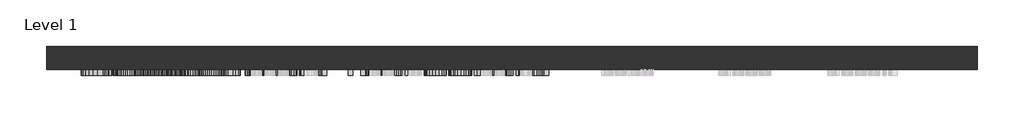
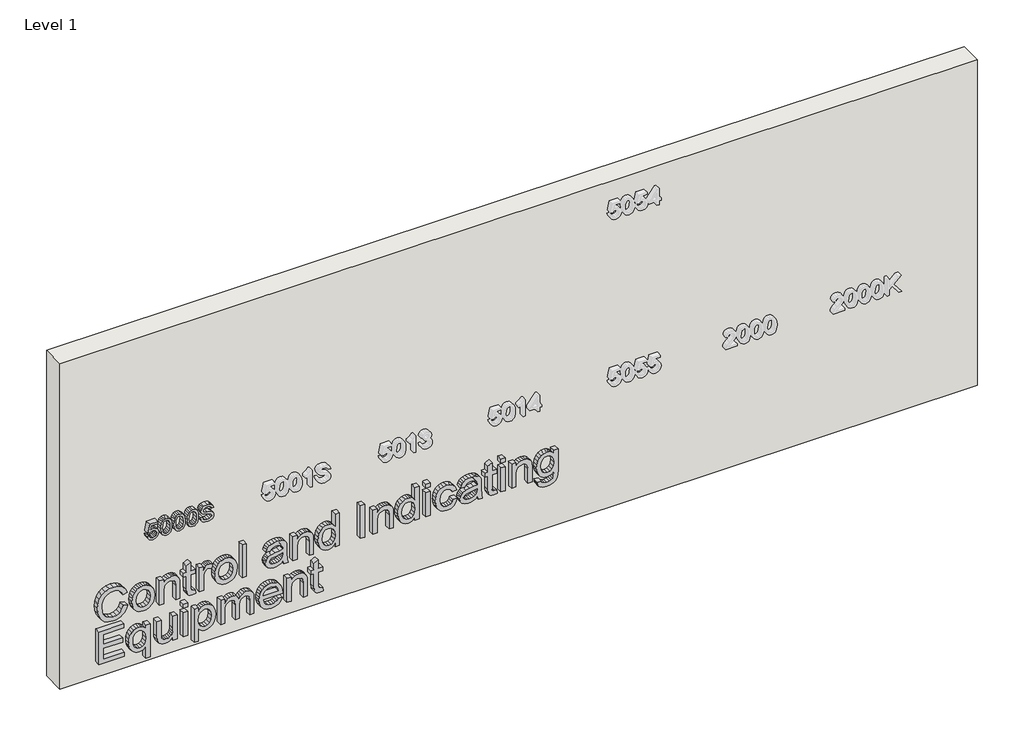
# One storey, part 1 of 2: 2 proxies, 1 wall.
"""IFC4 building model written with IfcOpenShell, lengths in millimetres."""

from ifc_helpers import new_model, si_unit, frame, origin, origin_with_axes, place, context, project, spatial, polyline, outline, extrude, element, save

model = new_model("IFC4")

# Units and contexts
model_context = context("Model", 3, world=origin())
ifc_project = project(units=[si_unit("LENGTHUNIT", "METRE", prefix="MILLI")], contexts=[model_context])

# Site, building, storey
site = spatial("IfcSite", under=ifc_project)
building = spatial("IfcBuilding", under=site)
storey = spatial("IfcBuildingStorey", under=building, Name="Level 1", Elevation=0.0)

# Proxies
placement = place(None, origin())
element("IfcBuildingElementProxy", 1, Name="150 mm", ObjectType="150 mm", at=placement, inside=storey, context=model_context, shape_type="SweptSolid", body=[
    extrude(outline(polyline([(1176.8590027, -4787.5415242), (1159.5823445, -4782.9475978), (1146.0856738, -4772.8446385), (1137.3806661, -4758.1063661), (1134.4789968, -4739.6065003), (1138.9947483, -4717.4232159), (1152.5420028, -4700.463856), (1168.6552342, -4691.6070969), (1187.4907923, -4688.6548439), (1206.786203, -4691.9335922), (1222.2188527, -4701.7698371), (1232.3448046, -4716.3793508), (1235.7201219, -4733.9779057), (1232.9977951, -4748.0769832), (1224.8308148, -4761.5322672), (1266.3279039, -4753.4756515), (1266.3279039, -4695.7181782), (1285.163462, -4695.7181782), (1285.163462, -4768.7059661), (1207.4667847, -4785.1870795), (1205.1123399, -4766.3515213), (1213.610414, -4755.7749139), (1216.8845637, -4739.2386183), (1214.8336216, -4725.2912921), (1208.6807953, -4715.3814709), (1198.9871047, -4709.4631693), (1186.3135699, -4707.4904021), (1172.8536874, -4709.5965265), (1162.346058, -4715.9148998), (1155.5724307, -4726.0316546), (1153.314555, -4739.5329239), (1154.9378343, -4750.6337631), (1159.8076722, -4759.2146106), (1167.9056746, -4765.2478753), (1179.2134474, -4768.7059661), (1176.8590027, -4787.5415242)])), frame((0.0, 3097.8550077, 0.0), z_axis=(0.0, 1.0, 0.0), x_axis=(0.0, 0.0, 1.0)), (0.0, 0.0, 1.0), 50.0),
    extrude(outline(polyline([(1210.9616636, -4672.1737305), (1174.3114199, -4668.4213342), (1148.8263946, -4657.1641451), (1138.0658463, -4642.3017125), (1134.4789968, -4622.7303904), (1136.5437345, -4607.5046743), (1142.7379476, -4595.1576348), (1153.130614, -4585.6064985), (1167.7907115, -4578.768492), (1186.9803561, -4574.6574107), (1210.9616636, -4573.2870502), (1246.3703057, -4576.7083528), (1268.6639546, -4585.5375207), (1282.6618645, -4600.7310471), (1287.5179068, -4622.7303904), (1285.4669647, -4637.873333), (1279.3141383, -4650.1927813), (1268.9628587, -4659.7577132), (1254.3165568, -4666.6371065), (1235.0809269, -4670.7895745), (1210.9616636, -4672.1737305)]), holes=[polyline([(1210.9984518, -4653.3381724), (1240.2450704, -4651.057304), (1258.602382, -4644.2146989), (1266.162357, -4634.7417375), (1268.6823487, -4622.9511196), (1265.8220662, -4610.498314), (1257.2412186, -4600.6574707), (1239.9599619, -4594.256324), (1210.9984518, -4592.1226084), (1181.4161409, -4594.3299004), (1164.2590443, -4600.9517763), (1156.0506773, -4610.8110137), (1153.314555, -4622.7303904), (1156.0414803, -4634.649767), (1164.2222561, -4644.5090045), (1181.3701556, -4651.1308804), (1210.9984518, -4653.3381724)])]), frame((0.0, 3097.8550077, 0.0), z_axis=(0.0, 1.0, 0.0), x_axis=(0.0, 0.0, 1.0)), (0.0, 0.0, 1.0), 50.0),
    extrude(outline(polyline([(1210.9616636, -4556.8059369), (1174.3114199, -4553.0535405), (1148.8263946, -4541.7963514), (1138.0658463, -4526.9339188), (1134.4789968, -4507.3625967), (1136.5437345, -4492.1368806), (1142.7379476, -4479.7898412), (1153.130614, -4470.2387049), (1167.7907115, -4463.4006983), (1186.9803561, -4459.289617), (1210.9616636, -4457.9192565), (1246.3703057, -4461.3405591), (1268.6639546, -4470.169727), (1282.6618645, -4485.3632534), (1287.5179068, -4507.3625967), (1285.4669647, -4522.5055393), (1279.3141383, -4534.8249876), (1268.9628587, -4544.3899195), (1254.3165568, -4551.2693128), (1235.0809269, -4555.4217808), (1210.9616636, -4556.8059369)]), holes=[polyline([(1210.9984518, -4537.9703787), (1240.2450704, -4535.6895103), (1258.602382, -4528.8469052), (1266.162357, -4519.3739438), (1268.6823487, -4507.5833259), (1265.8220662, -4495.1305204), (1257.2412186, -4485.289677), (1239.9599619, -4478.8885303), (1210.9984518, -4476.7548147), (1181.4161409, -4478.9621067), (1164.2590443, -4485.5839826), (1156.0506773, -4495.4432201), (1153.314555, -4507.3625967), (1156.0414803, -4519.2819733), (1164.2222561, -4529.1412108), (1181.3701556, -4535.7630867), (1210.9984518, -4537.9703787)])]), frame((0.0, 3097.8550077, 0.0), z_axis=(0.0, 1.0, 0.0), x_axis=(0.0, 0.0, 1.0)), (0.0, 0.0, 1.0), 50.0),
    extrude(outline(polyline([(1210.9616636, -4441.4381432), (1174.3114199, -4437.6857468), (1148.8263946, -4426.4285578), (1138.0658463, -4411.5661252), (1134.4789968, -4391.994803), (1136.5437345, -4376.7690869), (1142.7379476, -4364.4220475), (1153.130614, -4354.8709112), (1167.7907115, -4348.0329046), (1186.9803561, -4343.9218233), (1210.9616636, -4342.5514629), (1246.3703057, -4345.9727654), (1268.6639546, -4354.8019333), (1282.6618645, -4369.9954597), (1287.5179068, -4391.994803), (1285.4669647, -4407.1377456), (1279.3141383, -4419.457194), (1268.9628587, -4429.0221258), (1254.3165568, -4435.9015191), (1235.0809269, -4440.0539872), (1210.9616636, -4441.4381432)]), holes=[polyline([(1210.9984518, -4422.602585), (1240.2450704, -4420.3217166), (1258.602382, -4413.4791115), (1266.162357, -4404.0061502), (1268.6823487, -4392.2155322), (1265.8220662, -4379.7627267), (1257.2412186, -4369.9218833), (1239.9599619, -4363.5207366), (1210.9984518, -4361.387021), (1181.4161409, -4363.594313), (1164.2590443, -4370.2161889), (1156.0506773, -4380.0754264), (1153.314555, -4391.994803), (1156.0414803, -4403.9141797), (1164.2222561, -4413.7734171), (1181.3701556, -4420.395293), (1210.9984518, -4422.602585)])]), frame((0.0, 3097.8550077, 0.0), z_axis=(0.0, 1.0, 0.0), x_axis=(0.0, 0.0, 1.0)), (0.0, 0.0, 1.0), 50.0),
    extrude(outline(polyline([(1188.6312265, -4326.0703495), (1173.419306, -4323.8354664), (1159.8628545, -4317.9401574), (1148.7344241, -4308.7569031), (1140.8065671, -4296.658184), (1136.0608894, -4281.4692561), (1134.4789968, -4263.0153755), (1135.9459263, -4247.9827975), (1140.3467146, -4234.522915), (1147.3916549, -4223.3301053), (1156.7910398, -4215.0987456), (1167.7125366, -4210.0357697), (1179.323812, -4208.348111), (1190.6821686, -4209.8150405), (1200.6241796, -4214.2158288), (1209.0578743, -4221.706826), (1215.8912824, -4232.4443817), (1225.3458496, -4265.7744905), (1235.8672747, -4296.5294253), (1241.6890073, -4301.0267827), (1248.9270855, -4302.5259018), (1257.4159626, -4300.4105803), (1264.5620703, -4294.0646159), (1269.4181127, -4283.0925354), (1271.0367934, -4267.0988656), (1269.3997186, -4251.4730779), (1264.4884939, -4240.2066918), (1256.3766959, -4232.9962047), (1245.137901, -4229.5381139), (1245.137901, -4210.7025558), (1257.6182977, -4212.8270743), (1268.7191369, -4218.1705603), (1277.8702015, -4226.6134521), (1284.5012745, -4238.036188), (1289.8723516, -4267.8346296), (1284.7403978, -4295.7568731), (1278.4128274, -4306.7979315), (1269.6940242, -4314.8315545), (1259.4071239, -4319.7289836), (1248.3752625, -4321.3614599), (1229.650069, -4316.0823533), (1215.633765, -4300.0610924), (1206.3447446, -4270.5385623), (1199.1526516, -4243.1129596), (1190.5993952, -4230.3106661), (1178.8455654, -4227.1836692), (1166.2088189, -4231.3591298), (1156.7542516, -4244.0694528), (1153.314555, -4263.7511395), (1157.8578976, -4286.339094), (1169.7772743, -4301.1647384), (1188.6312265, -4307.2347913), (1188.6312265, -4326.0703495)])), frame((0.0, 3097.8550077, 0.0), z_axis=(0.0, 1.0, 0.0), x_axis=(0.0, 0.0, 1.0)), (0.0, 0.0, 1.0), 50.0),
])
element("IfcBuildingElementProxy", 2, Name="300 mm Arial 2", ObjectType="300 mm Arial 2", at=placement, inside=storey, context=model_context, shape_type="SweptSolid", body=[
    extrude(outline(polyline([(618.2566909, -4997.941147), (585.9934399, -5010.1272381), (562.780086, -5029.9100924), (548.763782, -5056.1124875), (544.0916807, -5087.557201), (547.5221803, -5114.5321483), (557.8136791, -5139.5389269), (575.0397535, -5160.397836), (599.2739799, -5174.9291749), (629.3667271, -5183.4548401), (664.1683639, -5186.2967285), (692.587248, -5183.8962985), (720.1600036, -5176.6950084), (744.5505798, -5163.5708183), (763.4229262, -5143.4016879), (775.5078497, -5116.8222137), (779.5361576, -5084.4669922), (775.9033229, -5056.397596), (765.0048188, -5033.5521241), (746.1600636, -5015.7098473), (718.6884756, -5002.6500365), (727.6647963, -4964.9789202), (765.4830654, -4981.6163834), (780.8053505, -4993.4184977), (793.7364026, -5007.542867), (804.0049088, -5023.722777), (811.3395561, -5041.6915133), (817.2072739, -5082.9954643), (812.6731283, -5120.8505216), (799.0706915, -5155.3946409), (776.7310574, -5184.5216979), (745.9853196, -5206.125568), (708.0382918, -5219.5072756), (664.0947875, -5223.9678448), (622.4321515, -5220.0223104), (583.5286305, -5208.1857072), (550.4376451, -5188.7983261), (526.2126157, -5162.2004578), (511.3685772, -5127.4999886), (506.4205644, -5083.8048046), (508.05534, -5061.382397), (512.9596668, -5040.7626112), (521.1335449, -5021.9454472), (532.5769742, -5004.9309049), (547.1336049, -4990.0546767), (564.6470871, -4977.6524549), (585.1174209, -4967.7242396), (608.5446062, -4960.2700307), (618.2566909, -4997.941147)])), frame((0.0, 3097.8550077, 0.0), z_axis=(0.0, 1.0, 0.0), x_axis=(0.0, 0.0, 1.0)), (0.0, 0.0, 1.0), 50.0),
    extrude(outline(polyline([(621.788358, -4922.5989144), (595.4664013, -4920.8905623), (572.4185943, -4915.7655063), (552.6449371, -4907.2237462), (536.1454296, -4895.2652821), (523.140801, -4880.538506), (513.8517807, -4863.6918099), (508.2783684, -4844.7251938), (506.4205644, -4823.6386577), (509.7958817, -4797.0499865), (519.9218336, -4772.6134249), (536.1546266, -4752.0396243), (557.8504673, -4737.039236), (586.8211744, -4727.8789743), (624.8785668, -4724.8255538), (649.758886, -4726.5522999), (671.7927182, -4731.7325382), (690.9800636, -4740.3662688), (707.3209219, -4752.4534916), (720.373835, -4767.2630412), (729.6973443, -4784.063752), (735.2914499, -4802.8556242), (737.1561517, -4823.6386577), (735.6248429, -4842.4650188), (731.0309165, -4859.8014578), (723.3743725, -4875.6479747), (712.6552109, -4890.0045696), (695.8843904, -4904.2645954), (675.1496414, -4914.4503282), (650.450964, -4920.5617678), (621.788358, -4922.5989144)]), holes=[polyline([(621.8619344, -4884.9277981), (655.9370042, -4880.5683964), (680.1712307, -4867.4901915), (694.6565842, -4847.8085047), (699.4850354, -4823.6386577), (694.6381901, -4799.7171309), (680.0976543, -4780.0446412), (656.1393393, -4766.8836629), (623.0391568, -4762.4966701), (588.2007319, -4766.8560717), (563.5894264, -4779.9342766), (548.9661171, -4799.5791752), (544.0916807, -4823.6386577), (548.938526, -4847.8085047), (563.4790618, -4867.4901915), (587.7684705, -4880.5683964), (621.8619344, -4884.9277981)])]), frame((0.0, 3097.8550077, 0.0), z_axis=(0.0, 1.0, 0.0), x_axis=(0.0, 0.0, 1.0)), (0.0, 0.0, 1.0), 50.0),
    extrude(outline(polyline([(511.1294539, -4682.4455479), (511.1294539, -4644.7744316), (628.5573868, -4644.7744316), (663.267053, -4640.4794093), (675.6416836, -4635.1106314), (684.6961792, -4627.5943424), (695.7878214, -4608.7863754), (699.4850354, -4586.7226528), (697.8387635, -4572.8259104), (692.8999477, -4560.8605485), (685.202017, -4551.5255429), (675.2784001, -4545.5198693), (641.9482914, -4541.1788618), (511.1294539, -4541.1788618), (511.1294539, -4503.5077455), (647.0250629, -4503.5077455), (683.4453804, -4505.4943082), (711.1468947, -4516.7882855), (721.6867138, -4526.8866463), (729.9824528, -4541.0684972), (735.362727, -4558.0738424), (737.1561517, -4576.6426861), (734.9304657, -4597.6211569), (728.2534075, -4615.9692714), (717.1249771, -4631.6870296), (701.5451746, -4644.7744316), (732.4472622, -4644.7744316), (732.4472622, -4682.4455479), (511.1294539, -4682.4455479)])), frame((0.0, 3097.8550077, 0.0), z_axis=(0.0, 1.0, 0.0), x_axis=(0.0, 0.0, 1.0)), (0.0, 0.0, 1.0), 50.0),
    extrude(outline(polyline([(542.5465763, -4371.6588384), (544.0916807, -4388.0663754), (546.6300664, -4400.905457), (553.5094597, -4407.3433919), (572.9336291, -4409.3299547), (694.7761459, -4409.3299547), (694.7761459, -4371.6588384), (732.4472622, -4371.6588384), (732.4472622, -4409.3299547), (808.378106, -4409.3299547), (786.2316099, -4447.001071), (732.4472622, -4447.001071), (732.4472622, -4475.2544082), (694.7761459, -4475.2544082), (694.7761459, -4447.001071), (571.8299831, -4447.001071), (544.8458388, -4445.8606368), (529.0820953, -4442.4393343), (519.9034395, -4436.2221285), (512.6745583, -4426.6939849), (507.9840628, -4413.2111097), (506.4205644, -4395.1297097), (510.0258079, -4366.9499488), (542.5465763, -4371.6588384)])), frame((0.0, 3097.8550077, 0.0), z_axis=(0.0, 1.0, 0.0), x_axis=(0.0, 0.0, 1.0)), (0.0, 0.0, 1.0), 50.0),
    extrude(outline(polyline([(511.1294539, -4333.9877221), (511.1294539, -4296.3166058), (627.4537408, -4296.3166058), (650.4095773, -4294.7898955), (671.4524274, -4290.2097647), (683.187863, -4284.7559141), (692.0538191, -4276.634919), (697.6272314, -4266.5825435), (699.4850354, -4255.3345515), (697.553655, -4242.0907997), (691.7595135, -4228.8470479), (725.5310807, -4216.2654836), (734.249884, -4235.321771), (737.1561517, -4254.0837527), (735.3351359, -4266.3710114), (729.8720882, -4277.6282004), (718.6884756, -4288.8486013), (699.7057646, -4301.0254953), (732.4472622, -4301.0254953), (732.4472622, -4333.9877221), (511.1294539, -4333.9877221)])), frame((0.0, 3097.8550077, 0.0), z_axis=(0.0, 1.0, 0.0), x_axis=(0.0, 0.0, 1.0)), (0.0, 0.0, 1.0), 50.0),
    extrude(outline(polyline([(621.788358, -4202.138815), (595.4664013, -4200.430463), (572.4185943, -4195.3054069), (552.6449371, -4186.7636469), (536.1454296, -4174.8051828), (523.140801, -4160.0784066), (513.8517807, -4143.2317105), (508.2783684, -4124.2650944), (506.4205644, -4103.1785583), (509.7958817, -4076.5898871), (519.9218336, -4052.1533256), (536.1546266, -4031.579525), (557.8504673, -4016.5791366), (586.8211744, -4007.418875), (624.8785668, -4004.3654544), (649.758886, -4006.0922005), (671.7927182, -4011.2724389), (690.9800636, -4019.9061694), (707.3209219, -4031.9933922), (720.373835, -4046.8029418), (729.6973443, -4063.6036527), (735.2914499, -4082.3955248), (737.1561517, -4103.1785583), (735.6248429, -4122.0049194), (731.0309165, -4139.3413584), (723.3743725, -4155.1878754), (712.6552109, -4169.5444702), (695.8843904, -4183.8044961), (675.1496414, -4193.9902288), (650.450964, -4200.1016685), (621.788358, -4202.138815)]), holes=[polyline([(621.8619344, -4164.4676987), (655.9370042, -4160.1082971), (680.1712307, -4147.0300921), (694.6565842, -4127.3484054), (699.4850354, -4103.1785583), (694.6381901, -4079.2570316), (680.0976543, -4059.5845419), (656.1393393, -4046.4235635), (623.0391568, -4042.0365707), (588.2007319, -4046.3959724), (563.5894264, -4059.4741773), (548.9661171, -4079.1190758), (544.0916807, -4103.1785583), (548.938526, -4127.3484054), (563.4790618, -4147.0300921), (587.7684705, -4160.1082971), (621.8619344, -4164.4676987)])]), frame((0.0, 3097.8550077, 0.0), z_axis=(0.0, 1.0, 0.0), x_axis=(0.0, 0.0, 1.0)), (0.0, 0.0, 1.0), 50.0),
    extrude(outline(polyline([(-3924.3143323, 3097.8550077), (-3961.9854486, 3097.8550077), (-3961.9854486, 3147.8550077), (-3924.3143323, 3147.8550077), (-3924.3143323, 3097.8550077)])), frame((0.0, 0.0, 511.1294539), z_axis=(0.0, 0.0, 1.0), x_axis=(1.0, 0.0, 0.0)), (0.0, 0.0, 1.0), 301.3689304),
    extrude(outline(polyline([(539.3827911, -3608.8187332), (511.1294539, -3599.4009541), (511.1294539, -3561.7298378), (542.8040937, -3569.2346305), (608.2503006, -3571.1476169), (655.1184668, -3571.1476169), (688.0806936, -3572.9870269), (702.1981651, -3577.5303695), (713.6484922, -3584.5385215), (722.9099215, -3595.1059318), (730.4606994, -3610.3270494), (735.4822887, -3630.5145739), (737.1561517, -3655.981205), (735.2615595, -3682.533088), (729.5777826, -3705.6820625), (720.3991269, -3724.6095912), (708.0198977, -3738.4971365), (691.8330899, -3748.2552064), (671.2316982, -3754.7943089), (666.5228087, -3717.1231926), (682.1853846, -3709.636794), (692.2377601, -3698.949822), (697.6732166, -3683.278049), (699.4850354, -3660.8372473), (696.7627087, -3636.5938238), (688.5957284, -3619.1930055), (677.5960567, -3611.4123013), (660.7838495, -3608.8187332), (652.39614, -3609.0394624), (645.4063821, -3635.8580598), (639.4466938, -3674.3753047), (633.7813111, -3706.9696495), (621.4204761, -3733.3467886), (611.9291206, -3743.9509871), (599.7890147, -3752.2927113), (585.6071638, -3757.7005766), (569.9905731, -3759.5031984), (544.6618978, -3754.7299295), (524.2996293, -3740.4101229), (510.8903306, -3717.1875719), (506.4205644, -3685.7060702), (508.2783684, -3664.837964), (513.8517807, -3645.3494153), (523.9501414, -3626.8173598), (539.3827911, -3608.8187332)]), holes=[polyline([(614.7250237, -3608.8187332), (604.0564459, -3609.0394624), (587.1338741, -3610.5293845), (574.9201919, -3614.9991507), (563.0651946, -3625.0791174), (553.1047895, -3639.573668), (546.3449579, -3657.452733), (544.0916807, -3677.6862427), (546.1334257, -3696.7701212), (552.258661, -3710.6116813), (561.4373167, -3719.0269819), (572.6393235, -3721.8320821), (587.1338741, -3716.6817342), (597.066688, -3702.0032426), (603.1735291, -3669.5928388), (614.7250237, -3608.8187332)])]), frame((0.0, 3097.8550077, 0.0), z_axis=(0.0, 1.0, 0.0), x_axis=(0.0, 0.0, 1.0)), (0.0, 0.0, 1.0), 50.0),
    extrude(outline(polyline([(511.1294539, -3519.349832), (511.1294539, -3481.6787157), (628.5573868, -3481.6787157), (663.267053, -3477.3836934), (675.6416836, -3472.0149155), (684.6961792, -3464.4986265), (695.7878214, -3445.6906595), (699.4850354, -3423.6269368), (697.8387635, -3409.7301944), (692.8999477, -3397.7648326), (685.202017, -3388.4298269), (675.2784001, -3382.4241534), (641.9482914, -3378.0831458), (511.1294539, -3378.0831458), (511.1294539, -3340.4120295), (647.0250629, -3340.4120295), (683.4453804, -3342.3985923), (711.1468947, -3353.6925695), (721.6867138, -3363.7909303), (729.9824528, -3377.9727812), (735.362727, -3394.9781264), (737.1561517, -3413.5469701), (734.9304657, -3434.5254409), (728.2534075, -3452.8735554), (717.1249771, -3468.5913137), (701.5451746, -3481.6787157), (732.4472622, -3481.6787157), (732.4472622, -3519.349832), (511.1294539, -3519.349832)])), frame((0.0, 3097.8550077, 0.0), z_axis=(0.0, 1.0, 0.0), x_axis=(0.0, 0.0, 1.0)), (0.0, 0.0, 1.0), 50.0),
    extrude(outline(polyline([(511.1294539, -3152.056448), (511.1294539, -3114.3853317), (812.4983843, -3114.3853317), (812.4983843, -3152.056448), (700.2207994, -3152.056448), (715.0924291, -3163.0377255), (726.8922441, -3176.8516945), (734.5901748, -3193.1488668), (737.1561517, -3211.5797548), (733.5693023, -3236.880839), (722.8087539, -3259.6619316), (705.3159651, -3278.4974897), (681.5323941, -3291.9619707), (653.0767217, -3300.0461776), (621.5676288, -3302.7409132), (589.6630628, -3299.8162513), (561.6396518, -3291.0422658), (538.435495, -3276.9523853), (520.9886914, -3258.080039), (510.0625961, -3235.7863901), (506.4205644, -3211.432602), (508.9359575, -3193.0155096), (516.4821369, -3176.9804531), (529.0591026, -3163.3274326), (546.6668546, -3152.056448), (511.1294539, -3152.056448)]), holes=[polyline([(621.7147816, -3265.0697969), (656.63598, -3261.0966713), (680.7598419, -3249.1772947), (694.803737, -3231.3166238), (699.4850354, -3209.5196156), (694.610599, -3187.1615874), (679.9872897, -3168.647926), (654.9529199, -3156.2043175), (618.8453021, -3152.056448), (585.818696, -3156.1307411), (562.5225686, -3168.3536204), (548.6994027, -3186.4074293), (544.0916807, -3207.9745112), (548.9201319, -3229.5507903), (563.4054854, -3248.0736487), (587.6397118, -3260.8207599), (621.7147816, -3265.0697969)])]), frame((0.0, 3097.8550077, 0.0), z_axis=(0.0, 1.0, 0.0), x_axis=(0.0, 0.0, 1.0)), (0.0, 0.0, 1.0), 50.0),
    extrude(outline(polyline([(-2893.0675234, 3097.8550077), (-2930.7386397, 3097.8550077), (-2930.7386397, 3147.8550077), (-2893.0675234, 3147.8550077), (-2893.0675234, 3097.8550077)])), frame((0.0, 0.0, 511.1294539), z_axis=(0.0, 0.0, 1.0), x_axis=(1.0, 0.0, 0.0)), (0.0, 0.0, 1.0), 301.3689304),
    extrude(outline(polyline([(511.1294539, -2822.4341803), (511.1294539, -2784.763064), (628.5573868, -2784.763064), (663.267053, -2780.4680417), (675.6416836, -2775.0992638), (684.6961792, -2767.5829748), (695.7878214, -2748.7750078), (699.4850354, -2726.7112852), (697.8387635, -2712.8145428), (692.8999477, -2700.8491809), (685.202017, -2691.5141753), (675.2784001, -2685.5085017), (641.9482914, -2681.1674942), (511.1294539, -2681.1674942), (511.1294539, -2643.4963778), (647.0250629, -2643.4963778), (683.4453804, -2645.4829406), (711.1468947, -2656.7769179), (721.6867138, -2666.8752786), (729.9824528, -2681.0571296), (735.362727, -2698.0624748), (737.1561517, -2716.6313185), (734.9304657, -2737.6097893), (728.2534075, -2755.9579038), (717.1249771, -2771.675662), (701.5451746, -2784.763064), (732.4472622, -2784.763064), (732.4472622, -2822.4341803), (511.1294539, -2822.4341803)])), frame((0.0, 3097.8550077, 0.0), z_axis=(0.0, 1.0, 0.0), x_axis=(0.0, 0.0, 1.0)), (0.0, 0.0, 1.0), 50.0),
    extrude(outline(polyline([(511.1294539, -2455.1407963), (511.1294539, -2417.46968), (812.4983843, -2417.46968), (812.4983843, -2455.1407963), (700.2207994, -2455.1407963), (715.0924291, -2466.1220739), (726.8922441, -2479.9360428), (734.5901748, -2496.2332152), (737.1561517, -2514.6641031), (733.5693023, -2539.9651874), (722.8087539, -2562.7462799), (705.3159651, -2581.5818381), (681.5323941, -2595.0463191), (653.0767217, -2603.1305259), (621.5676288, -2605.8252615), (589.6630628, -2602.9005997), (561.6396518, -2594.1266141), (538.435495, -2580.0367337), (520.9886914, -2561.1643873), (510.0625961, -2538.8707384), (506.4205644, -2514.5169503), (508.9359575, -2496.099858), (516.4821369, -2480.0648015), (529.0591026, -2466.4117809), (546.6668546, -2455.1407963), (511.1294539, -2455.1407963)]), holes=[polyline([(621.7147816, -2568.1541452), (656.63598, -2564.1810197), (680.7598419, -2552.261643), (694.803737, -2534.4009722), (699.4850354, -2512.603964), (694.610599, -2490.2459357), (679.9872897, -2471.7322743), (654.9529199, -2459.2886658), (618.8453021, -2455.1407963), (585.818696, -2459.2150894), (562.5225686, -2471.4379687), (548.6994027, -2489.4917776), (544.0916807, -2511.0588596), (548.9201319, -2532.6351386), (563.4054854, -2551.1579971), (587.6397118, -2563.9051082), (621.7147816, -2568.1541452)])]), frame((0.0, 3097.8550077, 0.0), z_axis=(0.0, 1.0, 0.0), x_axis=(0.0, 0.0, 1.0)), (0.0, 0.0, 1.0), 50.0),
    extrude(outline(polyline([(-2323.2918892, 3097.8550077), (-2360.9630055, 3097.8550077), (-2360.9630055, 3147.8550077), (-2323.2918892, 3147.8550077), (-2323.2918892, 3097.8550077)])), frame((0.0, 0.0, 774.827268), z_axis=(0.0, 0.0, 1.0), x_axis=(1.0, 0.0, 0.0)), (0.0, 0.0, 1.0), 37.6711163),
    extrude(outline(polyline([(-2323.2918892, 3097.8550077), (-2360.9630055, 3097.8550077), (-2360.9630055, 3147.8550077), (-2323.2918892, 3147.8550077), (-2323.2918892, 3097.8550077)])), frame((0.0, 0.0, 511.1294539), z_axis=(0.0, 0.0, 1.0), x_axis=(1.0, 0.0, 0.0)), (0.0, 0.0, 1.0), 221.3178083),
    extrude(outline(polyline([(591.180576, -2125.5185286), (570.3032728, -2131.9472665), (555.6431753, -2143.5815346), (546.9795543, -2159.5752043), (544.0916807, -2179.0821471), (548.7177968, -2203.1140385), (562.596145, -2222.0875524), (586.7016128, -2234.4207963), (622.0090872, -2238.5318776), (656.8475122, -2234.3288258), (680.8702065, -2221.7196704), (694.8313282, -2202.3966686), (699.4850354, -2178.0520775), (697.1213936, -2161.5617671), (690.0304682, -2147.7018129), (678.2490473, -2137.0608262), (661.8139191, -2130.2274182), (666.5228087, -2092.5563019), (696.5051913, -2102.8110125), (718.762052, -2121.0671565), (732.5576268, -2146.5153935), (737.1561517, -2178.3463831), (733.8084256, -2204.9902366), (723.7652471, -2229.5923451), (707.0174193, -2250.1569486), (683.555745, -2264.6882874), (654.5022645, -2273.3243172), (620.9790177, -2276.2029939), (594.9214761, -2274.5176345), (572.0783034, -2269.4615563), (552.4494997, -2261.0347593), (536.035065, -2249.2372436), (523.078721, -2234.6622188), (513.8241895, -2217.9028947), (508.2714706, -2198.9592712), (506.4205644, -2177.8313483), (511.7272621, -2145.2002154), (527.6473555, -2118.0873123), (552.9668338, -2098.3504433), (586.4716865, -2087.8474123), (591.180576, -2125.5185286)])), frame((0.0, 3097.8550077, 0.0), z_axis=(0.0, 1.0, 0.0), x_axis=(0.0, 0.0, 1.0)), (0.0, 0.0, 1.0), 50.0),
    extrude(outline(polyline([(539.3827911, -1913.6184994), (511.1294539, -1904.2007203), (511.1294539, -1866.529604), (542.8040937, -1874.0343967), (608.2503006, -1875.9473831), (655.1184668, -1875.9473831), (688.0806936, -1877.7867931), (702.1981651, -1882.3301357), (713.6484922, -1889.3382877), (722.9099215, -1899.905698), (730.4606994, -1915.1268156), (735.4822887, -1935.3143401), (737.1561517, -1960.7809712), (735.2615595, -1987.3328542), (729.5777826, -2010.4818287), (720.3991269, -2029.4093574), (708.0198977, -2043.2969027), (691.8330899, -2053.0549726), (671.2316982, -2059.5940751), (666.5228087, -2021.9229588), (682.1853846, -2014.4365602), (692.2377601, -2003.7495882), (697.6732166, -1988.0778152), (699.4850354, -1965.6370135), (696.7627087, -1941.39359), (688.5957284, -1923.9927717), (677.5960567, -1916.2120675), (660.7838495, -1913.6184994), (652.39614, -1913.8392286), (645.4063821, -1940.6578261), (639.4466938, -1979.175071), (633.7813111, -2011.7694157), (621.4204761, -2038.1465548), (611.9291206, -2048.7507533), (599.7890147, -2057.0924775), (585.6071638, -2062.5003429), (569.9905731, -2064.3029646), (544.6618978, -2059.5296958), (524.2996293, -2045.2098891), (510.8903306, -2021.9873381), (506.4205644, -1990.5058364), (508.2783684, -1969.6377302), (513.8517807, -1950.1491815), (523.9501414, -1931.617126), (539.3827911, -1913.6184994)]), holes=[polyline([(614.7250237, -1913.6184994), (604.0564459, -1913.8392286), (587.1338741, -1915.3291507), (574.9201919, -1919.7989169), (563.0651946, -1929.8788836), (553.1047895, -1944.3734342), (546.3449579, -1962.2524992), (544.0916807, -1982.4860089), (546.1334257, -2001.5698874), (552.258661, -2015.4114475), (561.4373167, -2023.8267481), (572.6393235, -2026.6318483), (587.1338741, -2021.4815004), (597.066688, -2006.8030088), (603.1735291, -1974.392605), (614.7250237, -1913.6184994)])]), frame((0.0, 3097.8550077, 0.0), z_axis=(0.0, 1.0, 0.0), x_axis=(0.0, 0.0, 1.0)), (0.0, 0.0, 1.0), 50.0),
    extrude(outline(polyline([(542.5465763, -1744.098476), (544.0916807, -1760.506013), (546.6300664, -1773.3450947), (553.5094597, -1779.7830296), (572.9336291, -1781.7695923), (694.7761459, -1781.7695923), (694.7761459, -1744.098476), (732.4472622, -1744.098476), (732.4472622, -1781.7695923), (808.378106, -1781.7695923), (786.2316099, -1819.4407086), (732.4472622, -1819.4407086), (732.4472622, -1847.6940459), (694.7761459, -1847.6940459), (694.7761459, -1819.4407086), (571.8299831, -1819.4407086), (544.8458388, -1818.3002745), (529.0820953, -1814.8789719), (519.9034395, -1808.6617662), (512.6745583, -1799.1336225), (507.9840628, -1785.6507474), (506.4205644, -1767.5693473), (510.0258079, -1739.3895865), (542.5465763, -1744.098476)])), frame((0.0, 3097.8550077, 0.0), z_axis=(0.0, 1.0, 0.0), x_axis=(0.0, 0.0, 1.0)), (0.0, 0.0, 1.0), 50.0),
    extrude(outline(polyline([(-1668.7562434, 3097.8550077), (-1706.4273597, 3097.8550077), (-1706.4273597, 3147.8550077), (-1668.7562434, 3147.8550077), (-1668.7562434, 3097.8550077)])), frame((0.0, 0.0, 774.827268), z_axis=(0.0, 0.0, 1.0), x_axis=(1.0, 0.0, 0.0)), (0.0, 0.0, 1.0), 37.6711163),
    extrude(outline(polyline([(-1668.7562434, 3097.8550077), (-1706.4273597, 3097.8550077), (-1706.4273597, 3147.8550077), (-1668.7562434, 3147.8550077), (-1668.7562434, 3097.8550077)])), frame((0.0, 0.0, 511.1294539), z_axis=(0.0, 0.0, 1.0), x_axis=(1.0, 0.0, 0.0)), (0.0, 0.0, 1.0), 221.3178083),
    extrude(outline(polyline([(511.1294539, -1612.249569), (511.1294539, -1574.5784527), (628.5573868, -1574.5784527), (663.267053, -1570.2834304), (675.6416836, -1564.9146525), (684.6961792, -1557.3983635), (695.7878214, -1538.5903965), (699.4850354, -1516.5266738), (697.8387635, -1502.6299315), (692.8999477, -1490.6645696), (685.202017, -1481.3295639), (675.2784001, -1475.3238904), (641.9482914, -1470.9828828), (511.1294539, -1470.9828828), (511.1294539, -1433.3117665), (647.0250629, -1433.3117665), (683.4453804, -1435.2983293), (711.1468947, -1446.5923065), (721.6867138, -1456.6906673), (729.9824528, -1470.8725182), (735.362727, -1487.8778634), (737.1561517, -1506.4467072), (734.9304657, -1527.4251779), (728.2534075, -1545.7732924), (717.1249771, -1561.4910507), (701.5451746, -1574.5784527), (732.4472622, -1574.5784527), (732.4472622, -1612.249569), (511.1294539, -1612.249569)])), frame((0.0, 3097.8550077, 0.0), z_axis=(0.0, 1.0, 0.0), x_axis=(0.0, 0.0, 1.0)), (0.0, 0.0, 1.0), 50.0),
    extrude(outline(polyline([(492.2938957, -1390.9317607), (475.7093155, -1389.7936257), (461.3458229, -1385.5698806), (449.2034178, -1378.2605252), (439.2821002, -1367.8655596), (426.0659396, -1340.2652129), (421.6605527, -1305.2152558), (424.7875496, -1275.1317056), (434.1685405, -1250.2168975), (448.9298056, -1230.8938957), (468.1976251, -1217.5857645), (497.2511056, -1209.8602426), (541.3693539, -1207.2850687), (732.4472622, -1207.2850687), (732.4472622, -1244.956185), (704.193925, -1244.956185), (718.6148992, -1257.6895005), (728.915595, -1272.0506939), (735.0960126, -1288.0397651), (737.1561517, -1305.6567142), (733.51412, -1331.4544391), (722.5880247, -1353.6653146), (704.9756742, -1371.6731382), (681.2748767, -1384.8617077), (653.306648, -1392.9459146), (622.892004, -1395.6406502), (600.7179168, -1394.1392318), (580.1809044, -1389.6349766), (561.2809669, -1382.1278847), (544.0181043, -1371.6179559), (529.6293197, -1358.3719048), (519.3516165, -1342.6564458), (513.1849945, -1324.471579), (511.1294539, -1303.8173042), (512.8952875, -1286.9223236), (518.1927882, -1271.4804768), (527.0219561, -1257.491764), (539.3827911, -1244.956185), (495.4576809, -1247.5313589), (480.2273663, -1254.5211169), (468.8230245, -1265.9254587), (461.7045078, -1282.3697839), (459.331669, -1304.4794918), (461.4285963, -1325.2096422), (467.7193785, -1341.0469621), (475.8127824, -1349.1035778), (487.5850062, -1353.2606444), (492.2938957, -1390.9317607)]), holes=[polyline([(625.467178, -1357.9695339), (657.6660496, -1353.8952408), (680.8334183, -1341.6723615), (694.8221311, -1323.6369467), (699.4850354, -1302.125047), (694.7485547, -1280.2176742), (680.5391127, -1261.731604), (657.0222561, -1249.1500397), (624.363532, -1244.956185), (590.4999944, -1249.0304781), (567.0475172, -1261.2533574), (553.3623069, -1279.4727132), (548.8005702, -1301.5364358), (553.3898981, -1323.7657054), (567.1578818, -1341.8930907), (590.9138616, -1353.9504231), (625.467178, -1357.9695339)])]), frame((0.0, 3097.8550077, 0.0), z_axis=(0.0, 1.0, 0.0), x_axis=(0.0, 0.0, 1.0)), (0.0, 0.0, 1.0), 50.0),
    extrude(outline(polyline([(145.2050004, -5209.8411762), (145.2050004, -4988.5233679), (182.8761167, -4988.5233679), (182.8761167, -5172.1700599), (281.762797, -5172.1700599), (281.762797, -5002.6500365), (319.4339133, -5002.6500365), (319.4339133, -5172.1700599), (408.9028145, -5172.1700599), (408.9028145, -4993.2322574), (446.5739308, -4993.2322574), (446.5739308, -5209.8411762), (145.2050004, -5209.8411762)])), frame((0.0, 3097.8550077, 0.0), z_axis=(0.0, 1.0, 0.0), x_axis=(0.0, 0.0, 1.0)), (0.0, 0.0, 1.0), 50.0),
    extrude(outline(polyline([(60.4449887, -4800.1677864), (60.4449887, -4762.4966701), (366.5228087, -4762.4966701), (366.5228087, -4800.1677864), (328.9988452, -4800.1677864), (347.4757184, -4812.4366509), (360.6734849, -4826.8024428), (368.5921449, -4843.2651621), (371.2316982, -4861.8248088), (367.8287897, -4885.8291089), (357.6200644, -4907.8100582), (340.8078572, -4926.2961284), (317.5945033, -4939.8157917), (289.4699248, -4948.0931366), (257.9240437, -4950.8522516), (232.0458446, -4949.1140092), (209.0785118, -4943.8992819), (189.0220452, -4935.2080697), (171.876445, -4923.0403728), (158.1475488, -4908.4676472), (148.3411944, -4892.5613495), (142.4573817, -4875.3214795), (140.4961108, -4856.7480372), (142.9793143, -4839.93583), (150.4289247, -4824.0801161), (161.6309314, -4810.4132999), (175.371324, -4800.1677864), (60.4449887, -4800.1677864)]), holes=[polyline([(255.8639045, -4913.1811353), (290.5459796, -4909.1620245), (314.6882355, -4897.1046921), (328.8424953, -4879.2716124), (333.5605819, -4857.9252596), (328.4930074, -4836.1742366), (313.290284, -4817.4214519), (288.044382, -4804.4812028), (252.8472722, -4800.1677864), (219.9218336, -4804.2604736), (196.6349033, -4816.5385352), (182.7841462, -4834.4819795), (178.1672271, -4855.5708148), (183.0232695, -4877.5793552), (197.5913965, -4896.2217753), (221.8716082, -4908.9412953), (255.8639045, -4913.1811353)])]), frame((0.0, 3097.8550077, 0.0), z_axis=(0.0, 1.0, 0.0), x_axis=(0.0, 0.0, 1.0)), (0.0, 0.0, 1.0), 50.0),
    extrude(outline(polyline([(145.2050004, -4564.7233095), (145.2050004, -4527.0521931), (366.5228087, -4527.0521931), (366.5228087, -4564.7233095), (251.3757442, -4564.7233095), (227.1231236, -4566.2500197), (209.4004085, -4570.8301506), (196.4601593, -4579.0799043), (186.5549366, -4591.6154833), (180.2641545, -4606.8182068), (178.1672271, -4623.0693939), (180.2181693, -4638.4376642), (186.3709956, -4651.1387901), (196.1106714, -4660.5473721), (208.9221619, -4666.0380109), (247.3290422, -4668.3188793), (366.5228087, -4668.3188793), (366.5228087, -4705.9899956), (229.5971301, -4705.9899956), (194.5747641, -4703.7827036), (166.8364617, -4692.5623028), (156.4621894, -4682.463942), (148.0009035, -4668.1349383), (142.372309, -4651.0560167), (140.4961108, -4632.7079022), (143.1678538, -4612.3456337), (151.1830828, -4594.2274455), (164.5417977, -4578.3533374), (183.2439987, -4564.7233095), (145.2050004, -4564.7233095)])), frame((0.0, 3097.8550077, 0.0), z_axis=(0.0, 1.0, 0.0), x_axis=(0.0, 0.0, 1.0)), (0.0, 0.0, 1.0), 50.0),
    extrude(outline(polyline([(-4437.5832919, 3097.8550077), (-4475.2544082, 3097.8550077), (-4475.2544082, 3147.8550077), (-4437.5832919, 3147.8550077), (-4437.5832919, 3097.8550077)])), frame((0.0, 0.0, 145.2050004), z_axis=(0.0, 0.0, 1.0), x_axis=(1.0, 0.0, 0.0)), (0.0, 0.0, 1.0), 221.3178083),
    extrude(outline(polyline([(-4437.5832919, 3097.8550077), (-4475.2544082, 3097.8550077), (-4475.2544082, 3147.8550077), (-4437.5832919, 3147.8550077), (-4437.5832919, 3097.8550077)])), frame((0.0, 0.0, 408.9028145), z_axis=(0.0, 0.0, 1.0), x_axis=(1.0, 0.0, 0.0)), (0.0, 0.0, 1.0), 37.6711163),
    extrude(outline(polyline([(60.4449887, -4381.0766175), (60.4449887, -4343.4055012), (174.63556, -4343.4055012), (161.1250937, -4332.7645144), (150.1714073, -4319.5299597), (142.9149349, -4304.0697188), (140.4961108, -4286.7516739), (144.1105514, -4262.3335065), (154.9538732, -4239.1109555), (172.5754208, -4219.1717514), (196.5245387, -4204.6036244), (225.338896, -4195.691683), (257.5561617, -4192.7210359), (287.851244, -4195.3513922), (315.6079405, -4203.242461), (339.1156, -4216.3022718), (356.6635712, -4234.4388542), (367.5896664, -4256.714109), (371.2316982, -4282.1899372), (368.6289331, -4301.3198009), (360.8206377, -4317.3594559), (347.8068122, -4331.1182425), (329.5874563, -4343.4055012), (366.5228087, -4343.4055012), (366.5228087, -4381.0766175), (60.4449887, -4381.0766175)]), holes=[polyline([(254.0980709, -4343.4055012), (288.2651112, -4339.0552966), (313.2167076, -4326.0046828), (328.4746133, -4307.3070804), (333.5605819, -4286.0159099), (328.778116, -4264.8075129), (314.4307181, -4246.7996892), (290.4816003, -4234.4940365), (256.8939741, -4230.3921522), (221.8532141, -4234.595204), (197.3706673, -4247.2043594), (182.9680872, -4265.6996267), (178.1672271, -4287.5610143), (182.8025403, -4309.072914), (196.7084797, -4327.1083288), (220.3265038, -4339.3312081), (254.0980709, -4343.4055012)])]), frame((0.0, 3097.8550077, 0.0), z_axis=(0.0, 1.0, 0.0), x_axis=(0.0, 0.0, 1.0)), (0.0, 0.0, 1.0), 50.0),
    extrude(outline(polyline([(145.2050004, -4150.3410301), (145.2050004, -4112.6699138), (256.8203977, -4112.6699138), (282.7376843, -4111.235174), (301.7755775, -4106.9309547), (315.4975759, -4099.426162), (325.467178, -4088.3897021), (331.5372309, -4075.0171916), (333.5605819, -4060.5042469), (330.5255554, -4043.4253252), (321.4204761, -4031.9198158), (306.2269497, -4025.3807134), (284.9265821, -4023.2010126), (145.2050004, -4023.2010126), (145.2050004, -3985.5298962), (270.1377259, -3985.5298962), (298.8509156, -3981.8418792), (318.4774201, -3970.7778282), (329.7897914, -3954.140365), (333.5605819, -3933.7321113), (332.0890539, -3922.1714196), (327.67447, -3912.2110146), (320.859456, -3904.4670986), (312.186638, -3899.555874), (280.7327274, -3896.060995), (145.2050004, -3896.060995), (145.2050004, -3858.3898787), (296.9195352, -3858.3898787), (329.890959, -3862.7032951), (353.0215394, -3875.6435443), (366.6791585, -3896.5852269), (371.2316982, -3924.9029434), (368.4955759, -3944.4282803), (360.2872088, -3962.0222368), (346.6065971, -3977.6848127), (327.4537408, -3991.4160082), (345.8938258, -3999.6197767), (359.7169917, -4012.1645527), (368.3530216, -4028.9583658), (371.2316982, -4049.9092454), (368.4082039, -4069.4621734), (359.9377209, -4086.7710213), (346.8319249, -4101.3391483), (330.1024911, -4112.6699138), (366.5228087, -4112.6699138), (366.5228087, -4150.3410301), (145.2050004, -4150.3410301)])), frame((0.0, 3097.8550077, 0.0), z_axis=(0.0, 1.0, 0.0), x_axis=(0.0, 0.0, 1.0)), (0.0, 0.0, 1.0), 50.0),
    extrude(outline(polyline([(211.1294539, -3646.9313079), (196.2486272, -3657.4895211), (186.0399018, -3671.2115196), (180.1353958, -3688.0973031), (178.1672271, -3708.1468719), (182.4162642, -3734.8091195), (195.1633753, -3756.670507), (215.8935257, -3771.8180482), (244.0916807, -3778.3387566), (244.0916807, -3609.0394624), (254.2452237, -3608.8187332), (280.4982026, -3610.6052601), (303.6333816, -3615.9648409), (323.6507606, -3624.8974756), (340.5503398, -3637.4031642), (353.9734341, -3652.72315), (363.5613586, -3670.0986765), (369.3141133, -3689.5297437), (371.2316982, -3711.0163514), (369.3095148, -3733.2180299), (363.5429645, -3753.2492045), (353.9320474, -3771.1098754), (340.4767634, -3786.8000425), (323.540396, -3799.5793433), (303.4862288, -3808.7074153), (280.3142616, -3814.1842585), (254.0244945, -3816.0098729), (228.5969509, -3814.2026526), (206.172244, -3808.7809917), (186.7503739, -3799.7448902), (170.3313406, -3787.0943481), (157.2784276, -3771.3627942), (147.9549183, -3753.0836576), (142.3608127, -3732.2569381), (140.4961108, -3708.8826359), (144.8187243, -3673.2256735), (157.7865646, -3644.5400749), (178.5902914, -3623.3040867), (206.4205644, -3609.9959556), (211.1294539, -3646.9313079)]), holes=[polyline([(281.762797, -3778.3387566), (302.9987851, -3772.149142), (319.4707015, -3757.5534238), (330.0381118, -3736.556559), (333.5605819, -3711.1635042), (329.1459979, -3683.5355664), (315.9022461, -3661.5730113), (301.6652129, -3651.5850151), (281.762797, -3646.4898495), (281.762797, -3778.3387566)])]), frame((0.0, 3097.8550077, 0.0), z_axis=(0.0, 1.0, 0.0), x_axis=(0.0, 0.0, 1.0)), (0.0, 0.0, 1.0), 50.0),
    extrude(outline(polyline([(145.2050004, -3571.1476169), (145.2050004, -3533.4765006), (262.6329332, -3533.4765006), (297.3425995, -3529.1814783), (309.7172301, -3523.8127004), (318.7717257, -3516.2964114), (329.8633678, -3497.4884444), (333.5605819, -3475.4247217), (331.91431, -3461.5279794), (326.9754942, -3449.5626175), (319.2775634, -3440.2276118), (309.3539466, -3434.2219383), (276.0238378, -3429.8809307), (145.2050004, -3429.8809307), (145.2050004, -3392.2098144), (281.1006094, -3392.2098144), (317.5209269, -3394.1963772), (345.2224411, -3405.4903545), (355.7622603, -3415.5887152), (364.0579993, -3429.7705661), (369.4382735, -3446.7759114), (371.2316982, -3465.3447551), (369.0060121, -3486.3232258), (362.3289539, -3504.6713404), (351.2005236, -3520.3890986), (335.6207211, -3533.4765006), (366.5228087, -3533.4765006), (366.5228087, -3571.1476169), (145.2050004, -3571.1476169)])), frame((0.0, 3097.8550077, 0.0), z_axis=(0.0, 1.0, 0.0), x_axis=(0.0, 0.0, 1.0)), (0.0, 0.0, 1.0), 50.0),
    extrude(outline(polyline([(176.6221227, -3260.3609074), (178.1672271, -3276.7684443), (180.7056129, -3289.607526), (187.5850062, -3296.0454609), (207.0091756, -3298.0320237), (328.8516924, -3298.0320237), (328.8516924, -3260.3609074), (366.5228087, -3260.3609074), (366.5228087, -3298.0320237), (442.4536525, -3298.0320237), (420.3071564, -3335.70314), (366.5228087, -3335.70314), (366.5228087, -3363.9564772), (328.8516924, -3363.9564772), (328.8516924, -3335.70314), (205.9055296, -3335.70314), (178.9213852, -3334.5627058), (163.1576417, -3331.1414032), (153.9789859, -3324.9241975), (146.7501047, -3315.3960538), (142.0596093, -3301.9131787), (140.4961108, -3283.8317786), (144.1013544, -3255.6520178), (176.6221227, -3260.3609074)])), frame((0.0, 3097.8550077, 0.0), z_axis=(0.0, 1.0, 0.0), x_axis=(0.0, 0.0, 1.0)), (0.0, 0.0, 1.0), 50.0),
])

# Wall
element("IfcWall", 3, ObjectType="Generic - 200mm", at=placement, inside=storey, context=model_context, shape_type="SweptSolid", body=[
    extrude(outline(polyline([(2477.4253408, 3147.8550077), (-5522.5746592, 3147.8550077), (-5522.5746592, 3347.8550077), (2477.4253408, 3347.8550077), (2477.4253408, 3147.8550077)])), origin_with_axes(), (0.0, 0.0, 1.0), 3000.0),
])

save(model, "model.ifc")
